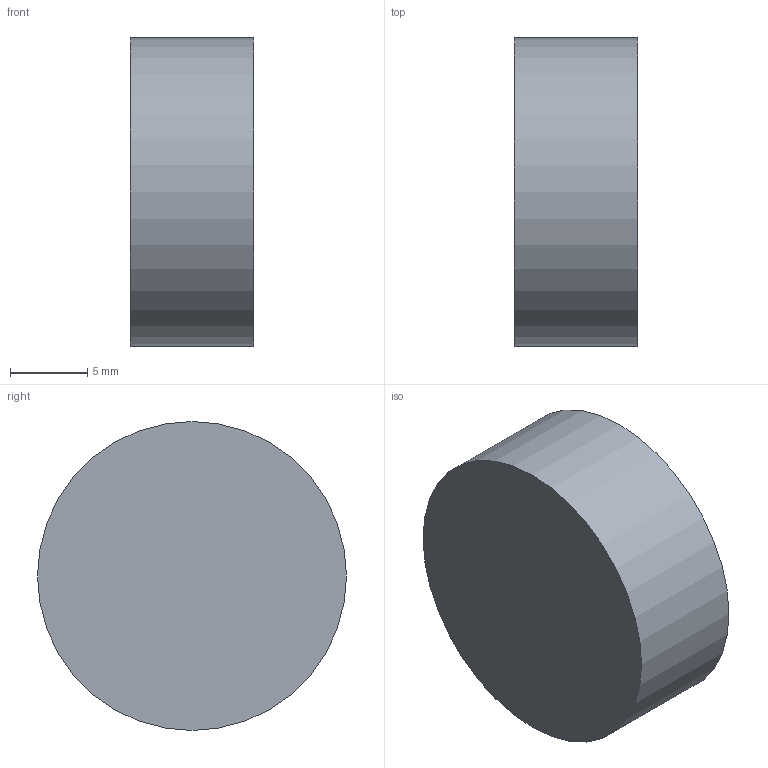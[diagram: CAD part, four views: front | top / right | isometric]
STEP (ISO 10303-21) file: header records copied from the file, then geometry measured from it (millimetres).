
FILE_DESCRIPTION(('Open CASCADE Model'),'2;1');
FILE_NAME('Open CASCADE Shape Model','2026-10-15T20:36:15',('Author'),( 'Open CASCADE'),'Open CASCADE STEP processor 7.9','Open CASCADE 7.9' ,'Unknown');
FILE_SCHEMA(('AUTOMOTIVE_DESIGN { 1 0 10303 214 1 1 1 1 }'));
Length unit declared in the file: millimetre
Products named in the file (1): Open CASCADE STEP translator 7.9 15
Bounding box: 8 x 20 x 20 mm (x, y, z)
Volume: 2513.3 mm3; surface area: 1131 mm2
Topology: 1 solids, 1 shells, 3 faces, 3 edges, 2 vertices
Faces by surface type: plane 2, cylinder 1
Full cylindrical faces by diameter (mm): 20 x1
Entity records: 114 total; most frequent: CARTESIAN_POINT 27, DIRECTION 17, AXIS2_PLACEMENT_3D 6, ORIENTED_EDGE 6, PCURVE 6, DEFINITIONAL_REPRESENTATION 6, LINE 5, VECTOR 5
